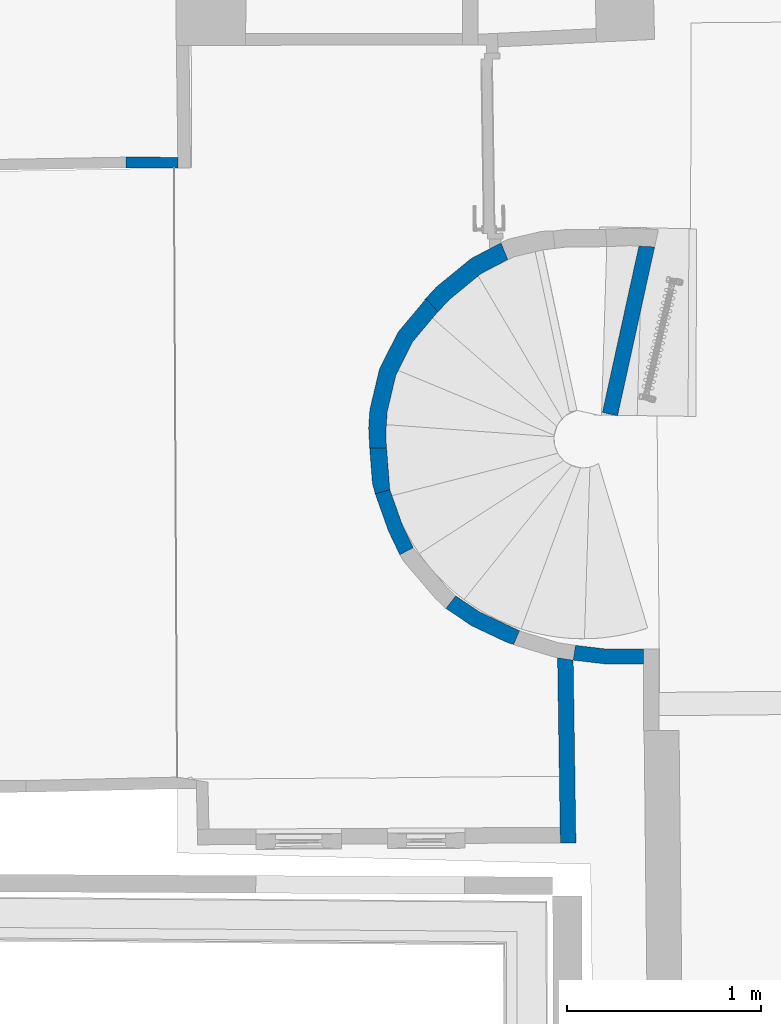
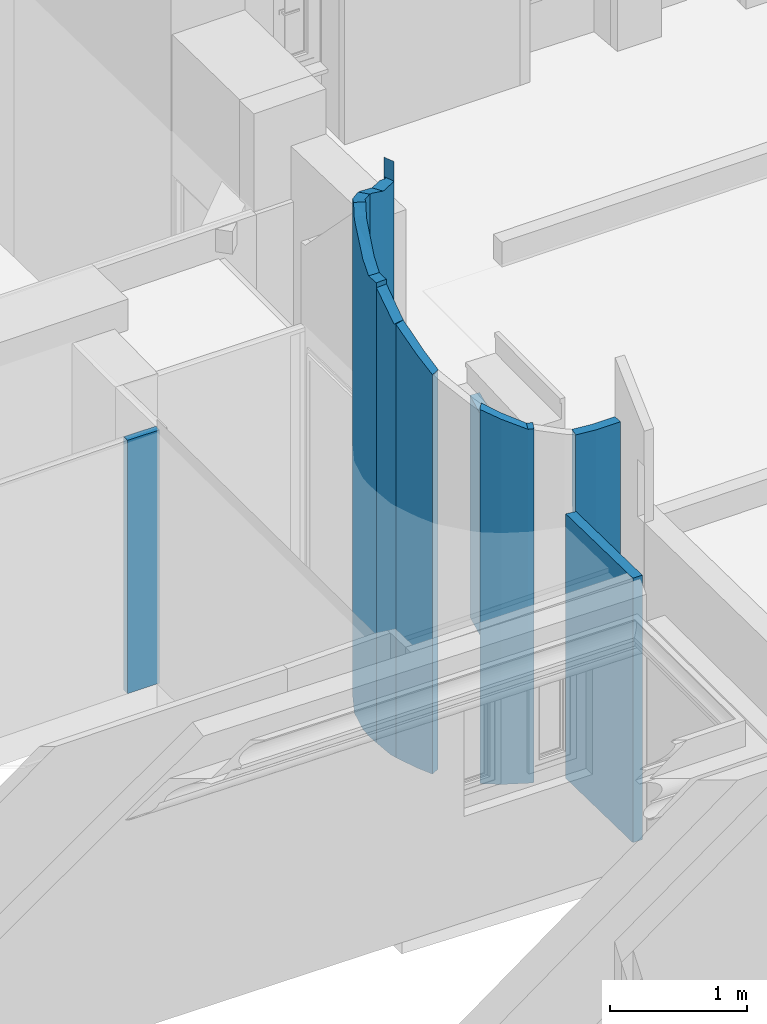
# One storey, part 10 of 72: 9 walls.
"""IFC2X3 building model written with IfcOpenShell, lengths in centimetres."""

from ifc_helpers import new_model, entity, si_unit, converted_unit, direction, frame, origin, origin_with_axes, place, context, subcontext, project, spatial, polyline, outline, extrude, clip, bounded_halfspace, material, layer, layer_set, layer_usage, type_object, element, save


model = new_model("IFC2X3")

# Units and contexts
model_context = context("Model", 3, precision=0.0001, world=origin(), true_north=direction((0.225632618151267, 0.974212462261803, 0.0)))
body_context = subcontext(model_context, "Body", "Model", "MODEL_VIEW")
ifc_project = project(units=[si_unit("LENGTHUNIT", "METRE", prefix="CENTI"), si_unit("AREAUNIT", "SQUARE_METRE", prefix="CENTI"), si_unit("VOLUMEUNIT", "CUBIC_METRE", prefix="CENTI"), converted_unit("PLANEANGLEUNIT", "DEGREE", entity("IfcRatioMeasure", 0.0174532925), si_unit("PLANEANGLEUNIT", "RADIAN"), dimensions=[0, 0, 0, 0, 0, 0, 0])], contexts=[model_context])

# Site, building, storey
site_placement = place(None, origin_with_axes())
site = spatial("IfcSite", under=ifc_project, at=site_placement, Name="Default Site", CompositionType="ELEMENT")
building_placement = place(site_placement, origin_with_axes())
building = spatial("IfcBuilding", under=site, at=building_placement, Name="Default Building", CompositionType="ELEMENT")
storey_placement = place(building_placement, frame((0.0, 0.0, 853.910374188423), z_axis=(0.0, 0.0, 1.0), x_axis=(1.0, 0.0, 0.0)))
storey = spatial("IfcBuildingStorey", under=building, at=storey_placement, Name="Niveau 2", CompositionType="ELEMENT", Elevation=853.910374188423)

# Walls
ifc_material = material(Name="<aucun>")
ifc_layer_1 = layer(ifc_material, 5.5)
ifc_layer_set_1 = layer_set([ifc_layer_1], Name="default")
ifc_layer_usage_1 = layer_usage(ifc_layer_set_1, "AXIS2", "POSITIVE", -2.75)
wall_type_1 = type_object("IfcWallType", Name="default 55", PredefinedType="NOTDEFINED", material=ifc_layer_set_1)
wall_1_placement = place(storey_placement, frame((-907.766249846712, 33.2991816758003, 1.4210854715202e-12), z_axis=(0.0, 0.0, 1.0), x_axis=(-0.99999518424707, 0.00310346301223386, 0.0)))
element("IfcWallStandardCase", 1, at=wall_1_placement, inside=storey, type_object=wall_type_1, material=ifc_layer_usage_1, Name="Enveloppe 170790", context=body_context, shape_type="SweptSolid", body=[
    extrude(outline(polyline([(26.8660749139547, 2.74999999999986), (1.97374601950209, 2.75), (1.97348199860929, 2.78197186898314), (-1.77635683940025e-13, 2.75000000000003), (0.0891040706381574, -2.75), (26.8660749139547, -2.75000000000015), (26.8660749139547, 2.74999999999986)])), origin_with_axes(), (0.0, 0.0, 1.0), 224.999999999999),
])
ifc_layer_2 = layer(ifc_material, 8.0)
ifc_layer_set_2 = layer_set([ifc_layer_2], Name="default")
ifc_layer_usage_2 = layer_usage(ifc_layer_set_2, "AXIS2", "POSITIVE", -4.0)
wall_type_2 = type_object("IfcWallType", Name="default 80", PredefinedType="NOTDEFINED", material=ifc_layer_set_2)
wall_2_placement = place(storey_placement, frame((-685.185756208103, -96.2820208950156, 1.06581410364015e-12), z_axis=(0.0, 0.0, 1.0), x_axis=(0.214401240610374, 0.976745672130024, 0.0)))
element("IfcWallStandardCase", 2, at=wall_2_placement, inside=storey, type_object=wall_type_2, material=ifc_layer_usage_2, Name="Enveloppe 190281", context=body_context, shape_type="SweptSolid", body=[
    extrude(outline(polyline([(4.44089209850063e-14, 3.99999999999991), (0.0, -4.00000000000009), (89.1022321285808, -3.99999999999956), (87.7575306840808, 4.0), (4.44089209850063e-14, 3.99999999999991)])), frame((0.0, 0.0, -8.88178419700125e-13), z_axis=(0.0, 0.0, 1.0), x_axis=(1.0, 0.0, 0.0)), (0.0, 0.0, 1.0), 197.0),
])
ifc_layer_usage_3 = layer_usage(ifc_layer_set_2, "AXIS2", "POSITIVE", -4.0)
wall_3_placement = place(storey_placement, frame((-706.874069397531, -309.06799141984, 1.4210854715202e-12), z_axis=(0.0, 0.0, 1.0), x_axis=(-0.0149330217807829, 0.9998884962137, 0.0)))
element("IfcWallStandardCase", 3, at=wall_3_placement, inside=storey, type_object=wall_type_2, material=ifc_layer_usage_3, Name="Enveloppe 170226", context=body_context, shape_type="SweptSolid", body=[
    extrude(outline(polyline([(87.3698062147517, 3.99999999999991), (-8.00036402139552, 4.00000000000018), (-8.07668226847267, -4.00000000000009), (86.0132334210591, -4.00000000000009), (86.0669454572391, -3.59832253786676), (87.3698062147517, 3.99999999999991)])), frame((0.0, 0.0, -1.06581410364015e-12), z_axis=(0.0, 0.0, 1.0), x_axis=(1.0, 0.0, 0.0)), (0.0, 0.0, 1.0), 234.999999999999),
])
ifc_layer_3 = layer(ifc_material, 9.0)
ifc_layer_set_3 = layer_set([ifc_layer_3], Name="default")
ifc_layer_usage_4 = layer_usage(ifc_layer_set_3, "AXIS2", "POSITIVE", -4.5)
wall_type_3 = type_object("IfcWallType", Name="default 90", PredefinedType="NOTDEFINED", material=ifc_layer_set_3)
wall_4_placement = place(storey_placement, frame((-805.009611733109, -103.5108878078, 0.0), z_axis=(0.0, 0.0, 1.0), x_axis=(0.0131360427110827, 0.999913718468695, 0.0)))
solid = clip(clip(clip(clip(clip(clip(clip(clip(extrude(outline(polyline([(2.22044604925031e-14, 4.50000000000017), (-10.3519824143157, 3.82881394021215), (-10.0317598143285, -4.85168976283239), (-6.13285936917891, -4.49679144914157), (-0.464886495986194, -4.53014160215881), (2.22044604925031e-14, -4.49999999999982), (8.56747510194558, -4.94255550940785), (27.4103182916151, -9.1477564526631), (44.7754641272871, -17.5850643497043), (59.7267531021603, -29.7996217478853), (60.3723304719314, -30.473660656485), (66.906873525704, -24.2849817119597), (66.1914205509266, -23.5379865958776), (49.6218431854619, -10.0013574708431), (30.3771394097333, -0.65081744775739), (9.49479618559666, 4.00954344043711), (2.22044604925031e-14, 4.50000000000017)])), frame((0.0, 0.0, 3.5527136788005e-13), z_axis=(0.0, 0.0, 1.0), x_axis=(1.0, 0.0, 0.0)), (0.0, 0.0, 1.0), 446.602189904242), bounded_halfspace(frame((59.7267531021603, -29.7996217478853, 432.837243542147), z_axis=(-0.26919255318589, 0.27792106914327, -0.922114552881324), x_axis=(-0.718296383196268, -0.69573723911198, 1.97372982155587e-14)), True, frame((59.7267531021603, -29.7996217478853, 432.837243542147), z_axis=(0.0, 0.0, 1.0), x_axis=(1.0, 0.0, 0.0)), polyline([(2.22044604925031e-14, 8.88178419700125e-14), (7.18012042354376, 5.51464003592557), (6.46466744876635, 6.26163515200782), (2.22044604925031e-14, 8.88178419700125e-14)]))), bounded_halfspace(frame((-10.3519824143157, 3.82881394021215, 408.606828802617), z_axis=(0.0, 0.0, -1.0), x_axis=(0.0368647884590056, -0.999320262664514, 0.0)), True, frame((-10.3519824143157, 3.82881394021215, 408.606828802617), z_axis=(0.0, 0.0, 1.0), x_axis=(1.0, 0.0, 0.0)), polyline([(2.22044604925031e-14, 0.0), (0.320222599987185, -8.68050370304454), (4.21912304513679, -8.32560538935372), (9.8870959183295, -8.35895554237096), (10.3519824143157, -8.32881394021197), (10.3519824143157, 0.671186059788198), (2.22044604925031e-14, 0.0)]))), bounded_halfspace(frame((49.6218431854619, -10.0013574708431, 441.835076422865), z_axis=(-0.328536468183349, 0.209951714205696, -0.920860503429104), x_axis=(-0.538486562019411, -0.842634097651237, 0.0)), True, frame((49.6218431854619, -10.0013574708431, 441.835076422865), z_axis=(0.0, 0.0, 1.0), x_axis=(1.0, 0.0, 0.0)), polyline([(-4.84637905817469, -7.58370687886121), (16.5695773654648, -13.5366291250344), (2.22044604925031e-14, 8.88178419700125e-14), (-4.84637905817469, -7.58370687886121)]))), bounded_halfspace(frame((30.3771394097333, -0.65081744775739, 438.659010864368), z_axis=(0.696064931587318, -0.0721032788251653, -0.714349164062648), x_axis=(-0.103035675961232, -0.99467766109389, 0.0)), True, frame((30.3771394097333, -0.65081744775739, 438.659010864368), z_axis=(0.0, 0.0, 1.0), x_axis=(1.0, 0.0, 0.0)), polyline([(-21.8096643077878, -4.29173806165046), (0.0, 1.77635683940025e-13), (-20.8823432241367, 4.6603608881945), (-21.8096643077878, -4.29173806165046)]))), bounded_halfspace(frame((9.49479618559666, 4.00954344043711, 417.840768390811), z_axis=(0.697190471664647, 1.53869972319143e-15, -0.7168859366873), x_axis=(2.20830298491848e-15, -1.0, 0.0)), True, frame((9.49479618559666, 4.00954344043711, 417.840768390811), z_axis=(0.0, 0.0, 1.0), x_axis=(1.0, 0.0, 0.0)), polyline([(-9.49479618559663, -8.50954344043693), (2.22044604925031e-14, 0.0), (-9.49479618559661, 0.490456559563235), (-9.49479618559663, -8.50954344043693)]))), bounded_halfspace(frame((8.56747510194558, -4.94255550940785, 417.840768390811), z_axis=(0.729164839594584, -0.0755319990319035, -0.680157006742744), x_axis=(0.103035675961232, 0.99467766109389, 0.0)), True, frame((8.56747510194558, -4.94255550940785, 417.840768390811), z_axis=(0.0, 0.0, 1.0), x_axis=(1.0, 0.0, 0.0)), polyline([(-8.56747510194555, 0.442555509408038), (0.0, 0.0), (0.9273210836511, 8.95209894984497), (-8.56747510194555, 0.442555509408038)]))), bounded_halfspace(frame((27.4103182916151, -9.1477564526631, 438.659010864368), z_axis=(0.69441230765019, -0.242463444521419, -0.677497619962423), x_axis=(0.329646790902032, 0.944104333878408, 0.0)), True, frame((27.4103182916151, -9.1477564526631, 438.659010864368), z_axis=(0.0, 0.0, 1.0), x_axis=(1.0, 0.0, 0.0)), polyline([(-18.8428431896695, 4.20520094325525), (1.11022302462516e-14, 8.88178419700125e-14), (2.96682111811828, 8.49693900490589), (-18.8428431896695, 4.20520094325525)]))), bounded_halfspace(frame((28.5411364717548, -9.69719388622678, 440.004752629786), z_axis=(0.687823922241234, -0.251833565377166, -0.680792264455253), x_axis=(0.343811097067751, 0.939038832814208, -1.97697672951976e-14)), True, frame((28.5411364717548, -9.69719388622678, 440.004752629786), z_axis=(0.0, 0.0, 1.0), x_axis=(1.0, 0.0, 0.0)), polyline([(-1.13081818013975, 0.549437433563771), (1.11022302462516e-14, 0.0), (3.08921791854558, 8.43746933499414), (-1.13081818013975, 0.549437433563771)])))
element("IfcWallStandardCase", 4, at=wall_4_placement, inside=storey, type_object=wall_type_3, material=ifc_layer_usage_4, Name="Enveloppe courbe 162928", context=body_context, shape_type="Clipping", body=[
    clip(clip(clip(clip(clip(clip(clip(solid, bounded_halfspace(frame((44.7754641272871, -17.5850643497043, 441.835076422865), z_axis=(-0.29554103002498, 0.305123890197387, -0.905292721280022), x_axis=(0.718296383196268, 0.69573723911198, 0.0)), True, frame((44.7754641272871, -17.5850643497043, 441.835076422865), z_axis=(0.0, 0.0, 1.0), x_axis=(1.0, 0.0, 0.0)), polyline([(2.22044604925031e-14, 0.0), (14.9512889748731, -12.2145573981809), (21.4159564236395, -5.95292224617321), (2.22044604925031e-14, 0.0)]))), bounded_halfspace(frame((59.7267531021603, -29.7996217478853, 432.837243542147), z_axis=(-0.289942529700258, 0.30614642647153, -0.906756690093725), x_axis=(0.726060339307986, 0.687630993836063, 0.0)), True, frame((59.7267531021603, -29.7996217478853, 432.837243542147), z_axis=(0.0, 0.0, 1.0), x_axis=(1.0, 0.0, 0.0)), polyline([(2.22044604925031e-14, 8.88178419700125e-14), (0.645577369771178, -0.674038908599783), (7.18012042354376, 5.51464003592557), (2.22044604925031e-14, 8.88178419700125e-14)]))), bounded_halfspace(frame((31.6303543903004, -1.25972455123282, 440.004752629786), z_axis=(0.658188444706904, -0.229815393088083, -0.716919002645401), x_axis=(0.466478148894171, 0.87193437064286, 0.148756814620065)), True, frame((31.6303543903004, -1.25972455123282, 440.004752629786), z_axis=(0.0, 0.0, 1.0), x_axis=(1.0, 0.0, 0.0)), polyline([(-4.22003609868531, -7.88803190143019), (2.22044604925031e-14, 1.77635683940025e-13), (-1.25321498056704, 0.608907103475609), (-4.22003609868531, -7.88803190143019)]))), bounded_halfspace(frame((35.5776206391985, -13.1160527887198, 446.602189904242), z_axis=(0.581809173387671, -0.277715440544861, -0.764442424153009), x_axis=(0.4307722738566, 0.902460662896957, 0.0)), True, frame((35.5776206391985, -13.1160527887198, 446.602189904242), z_axis=(0.0, 0.0, 1.0), x_axis=(1.0, 0.0, 0.0)), polyline([(-7.0364841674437, 3.41885890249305), (1.11022302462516e-14, 0.0), (3.85082855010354, 8.06742099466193), (-7.0364841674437, 3.41885890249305)]))), bounded_halfspace(frame((39.4284491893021, -5.04863179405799, 446.602189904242), z_axis=(0.570504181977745, -0.208879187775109, -0.794288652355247), x_axis=(-0.343811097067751, -0.939038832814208, 1.97697672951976e-14)), True, frame((39.4284491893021, -5.04863179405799, 446.602189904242), z_axis=(0.0, 0.0, 1.0), x_axis=(1.0, 0.0, 0.0)), polyline([(-10.8873127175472, -4.6485620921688), (2.22044604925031e-14, 8.88178419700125e-14), (-7.79809479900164, 3.78890724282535), (-10.8873127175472, -4.6485620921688)]))), bounded_halfspace(frame((35.5776206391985, -13.1160527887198, 446.602189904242), z_axis=(-0.358015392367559, 0.228790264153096, -0.905251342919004), x_axis=(0.538486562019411, 0.842634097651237, 0.0)), True, frame((35.5776206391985, -13.1160527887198, 446.602189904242), z_axis=(0.0, 0.0, 1.0), x_axis=(1.0, 0.0, 0.0)), polyline([(1.11022302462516e-14, 0.0), (9.19784348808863, -4.46901156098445), (14.0442225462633, 3.11469531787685), (1.11022302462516e-14, 0.0)]))), bounded_halfspace(frame((35.5776206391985, -13.1160527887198, 446.602189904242), z_axis=(-0.349924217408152, 0.167029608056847, -0.921766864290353), x_axis=(0.92671995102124, 0.205525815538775, -0.314562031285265)), True, frame((35.5776206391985, -13.1160527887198, 446.602189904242), z_axis=(0.0, 0.0, 1.0), x_axis=(1.0, 0.0, 0.0)), polyline([(1.11022302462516e-14, 0.0), (14.0442225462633, 3.11469531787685), (3.85082855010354, 8.06742099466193), (1.11022302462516e-14, 0.0)]))),
])
ifc_layer_4 = layer(ifc_material, 8.2)
ifc_layer_set_4 = layer_set([ifc_layer_4], Name="default")
ifc_layer_usage_5 = layer_usage(ifc_layer_set_4, "AXIS2", "POSITIVE", -4.1)
wall_type_4 = type_object("IfcWallType", Name="default 82", PredefinedType="NOTDEFINED", material=ifc_layer_set_4)
wall_5_placement = place(storey_placement, frame((-737.558811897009, -209.689468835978, 0.0), z_axis=(0.0, 0.0, 1.0), x_axis=(-0.936122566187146, 0.351673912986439, 0.0)))
element("IfcWallStandardCase", 5, at=wall_5_placement, inside=storey, type_object=wall_type_4, material=ifc_layer_usage_5, Name="Enveloppe courbe 169856", context=body_context, shape_type="Clipping", body=[
    clip(clip(clip(clip(clip(clip(extrude(outline(polyline([(34.7854367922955, -1.17822170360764), (19.2028500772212, 2.51950624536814), (-8.88178419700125e-14, 4.09999999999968), (-3.07198576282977, 4.05981702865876), (-4.43842433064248, 3.89316820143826), (-4.78862192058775, -3.79662760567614), (-2.66453525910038e-13, -4.10000000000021), (17.862127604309, -5.5701453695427), (32.3567547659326, -9.00970190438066), (34.7854367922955, -1.17822170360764)])), frame((0.0, 0.0, 3.5527136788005e-13), z_axis=(0.0, 0.0, 1.0), x_axis=(1.0, 0.0, 0.0)), (0.0, 0.0, 1.0), 332.486352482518), bounded_halfspace(frame((19.2028500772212, 2.51950624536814, 324.278299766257), z_axis=(0.45744161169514, 9.27036225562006e-15, -0.889239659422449), x_axis=(-1.58206781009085e-14, -1.0, 0.0)), True, frame((19.2028500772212, 2.51950624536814, 324.278299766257), z_axis=(0.0, 0.0, 1.0), x_axis=(1.0, 0.0, 0.0)), polyline([(-19.2028500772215, -6.61950624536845), (8.88178419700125e-14, 0.0), (-19.2028500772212, 1.58049375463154), (-19.2028500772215, -6.61950624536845)]))), bounded_halfspace(frame((-4.43842433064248, 3.89316820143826, 314.399992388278), z_axis=(0.0, 0.0, -1.0), x_axis=(-0.0454934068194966, -0.998964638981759, 0.0)), True, frame((-4.43842433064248, 3.89316820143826, 314.399992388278), z_axis=(0.0, 0.0, 1.0), x_axis=(1.0, 0.0, 0.0)), polyline([(-0.350197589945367, -7.68979580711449), (1.57519710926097, -7.81177486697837), (1.36643856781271, 0.166648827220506), (0.0, 0.0), (-0.350197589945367, -7.68979580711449)]))), bounded_halfspace(frame((17.862127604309, -5.5701453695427, 324.278299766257), z_axis=(0.477441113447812, -0.0791277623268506, -0.875093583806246), x_axis=(0.163502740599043, 0.986542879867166, 0.0)), True, frame((17.862127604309, -5.5701453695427, 324.278299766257), z_axis=(0.0, 0.0, 1.0), x_axis=(1.0, 0.0, 0.0)), polyline([(-17.8621276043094, 1.4701453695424), (0.0, -8.88178419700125e-14), (1.34072247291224, 8.08965161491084), (-17.8621276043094, 1.4701453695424)]))), bounded_halfspace(frame((32.3567547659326, -9.00970190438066, 332.486352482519), z_axis=(0.46161282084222, -0.143673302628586, -0.875369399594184), x_axis=(-0.876686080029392, -0.22451567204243, -0.425457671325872)), True, frame((32.3567547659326, -9.00970190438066, 332.486352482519), z_axis=(0.0, 0.0, 1.0), x_axis=(1.0, 0.0, 0.0)), polyline([(-14.4946271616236, 3.43955653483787), (0.0, -8.88178419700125e-14), (2.40916556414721, 7.76854780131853), (-14.4946271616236, 3.43955653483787)]))), bounded_halfspace(frame((34.7854367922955, -1.17822170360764, 332.486352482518), z_axis=(0.450805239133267, -0.0747133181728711, -0.889490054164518), x_axis=(0.295480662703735, 0.95280112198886, 0.0697223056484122)), True, frame((34.7854367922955, -1.17822170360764, 332.486352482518), z_axis=(0.0, 0.0, 1.0), x_axis=(1.0, 0.0, 0.0)), polyline([(-16.9233091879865, -4.39192366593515), (-0.0195164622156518, -0.0629323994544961), (0.0, -8.88178419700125e-14), (-15.5825867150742, 3.69772794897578), (-16.9233091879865, -4.39192366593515)]))), bounded_halfspace(frame((-8.88178419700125e-14, 4.09999999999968, 314.399992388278), z_axis=(0.0, 0.0, -1.0), x_axis=(-0.999914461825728, -0.0130793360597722, 0.0)), True, frame((-8.88178419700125e-14, 4.09999999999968, 314.399992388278), z_axis=(0.0, 0.0, 1.0), x_axis=(1.0, 0.0, 0.0)), polyline([(-3.07198576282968, -0.0401829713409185), (-2.86322722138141, -8.0186066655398), (-2.66453525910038e-13, -8.19999999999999), (8.88178419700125e-14, 0.0), (-3.07198576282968, -0.0401829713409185)]))),
])
ifc_layer_5 = layer(ifc_material, 7.8)
ifc_layer_set_5 = layer_set([ifc_layer_5], Name="default")
ifc_layer_usage_6 = layer_usage(ifc_layer_set_5, "AXIS2", "POSITIVE", -3.9)
wall_type_5 = type_object("IfcWallType", Name="default 78", PredefinedType="NOTDEFINED", material=ifc_layer_set_5)
wall_6_placement = place(storey_placement, frame((-789.999524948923, -166.919554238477, 0.0), z_axis=(0.0, 0.0, 1.0), x_axis=(-0.466552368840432, 0.884493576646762, 0.0)))
element("IfcWallStandardCase", 6, at=wall_6_placement, inside=storey, type_object=wall_type_5, material=ifc_layer_usage_6, Name="Enveloppe courbe 169375", context=body_context, shape_type="Clipping", body=[
    clip(clip(clip(clip(extrude(outline(polyline([(33.67924797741, 0.445038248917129), (13.6896431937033, 3.33415478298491), (3.64153152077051e-12, 3.8999999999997), (3.37507799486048e-12, -3.90000000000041), (13.0459354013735, -4.43923831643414), (32.0955986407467, -7.19250420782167), (33.67924797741, 0.445038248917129)])), frame((0.0, 0.0, 1.77635683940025e-13), z_axis=(0.0, 0.0, 1.0), x_axis=(1.0, 0.0, 0.0)), (0.0, 0.0, 1.0), 385.012152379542), bounded_halfspace(frame((33.67924797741, 0.445038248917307, 385.012152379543), z_axis=(0.664933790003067, -0.0550625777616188, -0.744869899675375), x_axis=(-0.0825266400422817, -0.996588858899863, 0.0)), True, frame((33.67924797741, 0.445038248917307, 385.012152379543), z_axis=(0.0, 0.0, 1.0), x_axis=(1.0, 0.0, 0.0)), polyline([(-20.6333125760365, -4.88427656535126), (4.44089209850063e-14, 1.77635683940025e-13), (-19.9896047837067, 2.88911653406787), (-20.6333125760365, -4.88427656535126)]))), bounded_halfspace(frame((13.6896431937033, 3.33415478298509, 366.954172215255), z_axis=(0.666714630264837, 0.0, -0.74531308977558), x_axis=(-3.58046925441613e-14, -1.0, -2.27738056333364e-14)), True, frame((13.6896431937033, 3.33415478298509, 366.954172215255), z_axis=(0.0, 0.0, 1.0), x_axis=(1.0, 0.0, 0.0)), polyline([(-13.6896431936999, -7.23415478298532), (0.0, 8.88178419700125e-14), (-13.6896431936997, 0.565845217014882), (-13.6896431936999, -7.23415478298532)]))), bounded_halfspace(frame((13.0459354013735, -4.43923831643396, 366.954172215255), z_axis=(0.682064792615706, -0.056481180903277, -0.729107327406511), x_axis=(0.0825266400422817, 0.996588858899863, 0.0)), True, frame((13.0459354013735, -4.43923831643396, 366.954172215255), z_axis=(0.0, 0.0, 1.0), x_axis=(1.0, 0.0, 0.0)), polyline([(-13.0459354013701, 0.539238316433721), (0.0, 0.0), (0.643707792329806, 7.77339309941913), (-13.0459354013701, 0.539238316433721)]))), bounded_halfspace(frame((32.0955986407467, -7.19250420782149, 385.012152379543), z_axis=(0.670621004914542, -0.139053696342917, -0.728650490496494), x_axis=(0.203031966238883, 0.979172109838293, 0.0)), True, frame((32.0955986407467, -7.19250420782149, 385.012152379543), z_axis=(0.0, 0.0, 1.0), x_axis=(1.0, 0.0, 0.0)), polyline([(-19.0496632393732, 2.75326589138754), (0.0, 0.0), (1.58364933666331, 7.63754245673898), (-19.0496632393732, 2.75326589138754)]))),
])
ifc_layer_6 = layer(ifc_material, 8.7)
ifc_layer_set_6 = layer_set([ifc_layer_6], Name="default")
ifc_layer_usage_7 = layer_usage(ifc_layer_set_6, "AXIS2", "POSITIVE", -4.35)
wall_type_6 = type_object("IfcWallType", Name="default 87", PredefinedType="NOTDEFINED", material=ifc_layer_set_6)
wall_7_placement = place(storey_placement, frame((-802.90974251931, -135.848268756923, 0.0), z_axis=(0.0, 0.0, 1.0), x_axis=(-0.154654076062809, 0.98796868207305, 0.0)))
element("IfcWallStandardCase", 7, at=wall_7_placement, inside=storey, type_object=wall_type_6, material=ifc_layer_usage_7, Name="Enveloppe courbe 169304", context=body_context, shape_type="Clipping", body=[
    clip(clip(clip(clip(clip(clip(extrude(outline(polyline([(22.7093324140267, 2.58332688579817), (-1.55431223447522e-13, 4.35000000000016), (-1.11022302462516e-13, 3.49253159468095), (-0.977556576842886, 3.38850005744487), (-1.77635683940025e-13, -4.34999999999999), (21.5700094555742, -6.02803945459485), (22.7093324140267, 2.58332688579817)])), origin_with_axes(), (0.0, 0.0, 1.0), 404.430022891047), bounded_halfspace(frame((-1.55431223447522e-13, 4.35000000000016, 385.012152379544), z_axis=(0.0, 0.0, 1.0), x_axis=(0.99698763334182, -0.077560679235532, 0.0)), True, frame((-1.55431223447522e-13, 4.35000000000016, 385.012152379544), z_axis=(0.0, 0.0, 1.0), x_axis=(1.0, 0.0, 0.0)), polyline([(6.66133814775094e-14, -0.857468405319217), (0.0, -1.77635683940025e-13), (4.65471564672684, -0.362113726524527), (6.66133814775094e-14, -0.857468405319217)]))), bounded_halfspace(frame((22.7093324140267, 2.58332688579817, 404.430022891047), z_axis=(0.649878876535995, 2.77555756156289e-17, -0.760037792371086), x_axis=(-0.757563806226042, -0.0806199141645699, -0.647763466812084)), True, frame((22.7093324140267, 2.58332688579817, 404.430022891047), z_axis=(0.0, 0.0, 1.0), x_axis=(1.0, 0.0, 0.0)), polyline([(-22.7093324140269, -6.93332688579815), (-0.182322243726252, -1.37804967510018), (0.0, 0.0), (-18.0546167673, 1.40455938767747), (-22.7093324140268, 0.909204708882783), (-22.7093324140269, -6.93332688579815)]))), bounded_halfspace(frame((-1.11022302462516e-13, 3.49253159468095, 385.012152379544), z_axis=(0.0, 0.0, -1.0), x_axis=(-0.994385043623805, -0.105822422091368, 0.0)), True, frame((-1.11022302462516e-13, 3.49253159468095, 385.012152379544), z_axis=(0.0, 0.0, 1.0), x_axis=(1.0, 0.0, 0.0)), polyline([(-0.30116005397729, -5.45849863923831), (-6.66133814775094e-14, -7.84253159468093), (2.22044604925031e-14, 0.0), (-0.310938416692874, -0.0330900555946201), (-0.30116005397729, -5.45849863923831)]))), bounded_halfspace(frame((21.5700094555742, -6.02803945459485, 404.430022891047), z_axis=(0.66100764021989, -0.103472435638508, -0.743210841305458), x_axis=(0.131131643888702, 0.991134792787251, -0.0213615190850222)), True, frame((21.5700094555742, -6.02803945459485, 404.430022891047), z_axis=(0.0, 0.0, 1.0), x_axis=(1.0, 0.0, 0.0)), polyline([(-21.5700094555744, 1.67803945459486), (0.0, -1.77635683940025e-13), (0.957000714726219, 7.23331666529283), (-21.5700094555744, 1.67803945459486)]))), bounded_halfspace(frame((-0.310938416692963, 3.45944153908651, 385.012152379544), z_axis=(0.0, 0.0, -1.0), x_axis=(-0.994385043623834, -0.105822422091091, 0.0)), True, frame((-0.310938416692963, 3.45944153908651, 385.012152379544), z_axis=(0.0, 0.0, 1.0), x_axis=(1.0, 0.0, 0.0)), polyline([(-0.666618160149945, -0.0709414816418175), (0.00977836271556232, -5.42540858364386), (-2.22044604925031e-14, -1.77635683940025e-13), (-0.666618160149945, -0.0709414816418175)]))), bounded_halfspace(frame((4.65471564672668, 3.98788627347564, 388.992219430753), z_axis=(0.649878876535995, 2.77555756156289e-17, -0.760037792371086), x_axis=(0.757563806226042, 0.0806199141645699, 0.647763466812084)), True, frame((4.65471564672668, 3.98788627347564, 388.992219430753), z_axis=(0.0, 0.0, 1.0), x_axis=(1.0, 0.0, 0.0)), polyline([(-4.65471564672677, -0.495354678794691), (0.0, 0.0), (-4.65471564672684, 0.362113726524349), (-4.65471564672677, -0.495354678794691)]))),
])
ifc_layer_7 = layer(ifc_material, 7.7)
ifc_layer_set_7 = layer_set([ifc_layer_7], Name="default")
ifc_layer_usage_8 = layer_usage(ifc_layer_set_7, "AXIS2", "POSITIVE", -3.85)
wall_type_7 = type_object("IfcWallType", Name="default 77", PredefinedType="NOTDEFINED", material=ifc_layer_set_7)
wall_8_placement = place(storey_placement, frame((-660.401929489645, -221.067510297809, 0.0), z_axis=(0.0, 0.0, 1.0), x_axis=(-0.997344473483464, -0.0728285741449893, 0.0)))
element("IfcWallStandardCase", 8, at=wall_8_placement, inside=storey, type_object=wall_type_7, material=ifc_layer_usage_8, Name="Enveloppe courbe 170097", context=body_context, shape_type="Clipping", body=[
    clip(clip(extrude(outline(polyline([(44.1797937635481, -1.3316890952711), (28.1376304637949, 1.76835007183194), (7.8770261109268, 3.26724976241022), (7.33821293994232, -4.39288830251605), (27.0045248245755, -5.84782164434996), (42.4006683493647, -8.82302187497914), (44.1797937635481, -1.3316890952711)])), frame((0.0, 0.0, 3.5527136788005e-13), z_axis=(0.0, 0.0, 1.0), x_axis=(1.0, 0.0, 0.0)), (0.0, 0.0, 1.0), 303.1047512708), bounded_halfspace(frame((44.1797937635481, -1.3316890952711, 234.999999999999), z_axis=(0.0, 0.0, 1.0), x_axis=(-0.231064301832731, -0.972938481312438, 0.0)), True, frame((44.1797937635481, -1.3316890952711, 234.999999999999), z_axis=(0.0, 0.0, 1.0), x_axis=(1.0, 0.0, 0.0)), polyline([(-0.949120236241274, -3.99644425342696), (-0.188934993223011, 0.0365104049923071), (0.0, 0.0), (-0.949120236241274, -3.99644425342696)]))), bounded_halfspace(frame((43.7819021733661, -1.25479924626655, 234.999999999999), z_axis=(0.0, 0.0, 1.0), x_axis=(0.981835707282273, -0.189733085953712, 0.0)), True, frame((43.7819021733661, -1.25479924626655, 234.999999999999), z_axis=(0.0, 0.0, 1.0), x_axis=(1.0, 0.0, 0.0)), polyline([(-1.76310227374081, -7.49442914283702), (0.0, -4.44089209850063e-14), (0.208956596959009, -0.0403794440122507), (-0.551228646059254, -4.07333410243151), (-1.38123382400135, -7.5682226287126), (-1.76310227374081, -7.49442914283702)]))),
])
ifc_layer_8 = layer(ifc_material, 9.3)
ifc_layer_set_8 = layer_set([ifc_layer_8], Name="default")
ifc_layer_usage_9 = layer_usage(ifc_layer_set_8, "AXIS2", "POSITIVE", -4.65)
wall_type_8 = type_object("IfcWallType", Name="default 93", PredefinedType="NOTDEFINED", material=ifc_layer_set_8)
wall_9_placement = place(storey_placement, frame((-777.285877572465, -40.5293695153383, 0.0), z_axis=(0.0, 0.0, 1.0), x_axis=(0.648322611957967, 0.76136574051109, 0.0)))
element("IfcWallStandardCase", 9, at=wall_9_placement, inside=storey, type_object=wall_type_8, material=ifc_layer_usage_9, Name="Enveloppe courbe 162722", context=body_context, shape_type="Clipping", body=[
    clip(clip(clip(clip(clip(clip(clip(clip(extrude(outline(polyline([(8.08242361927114e-12, 4.64999999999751), (1.08037940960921, 4.28491915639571), (7.63833440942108e-12, -4.65), (8.38137170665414, -4.98551323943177), (28.6109149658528, -8.62893546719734), (29.945143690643, -9.01692798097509), (43.8001835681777, -14.5695986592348), (48.051623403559, -6.29643260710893), (32.6011152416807, -0.104250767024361), (31.1485476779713, 0.318154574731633), (9.12475384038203, 4.28472855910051), (8.08242361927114e-12, 4.64999999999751)])), frame((0.0, 0.0, 3.5527136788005e-13), z_axis=(0.0, 0.0, 1.0), x_axis=(1.0, 0.0, 0.0)), (0.0, 0.0, 1.0), 432.403240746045), bounded_halfspace(frame((7.63833440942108e-12, -4.65, 432.403240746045), z_axis=(-0.466088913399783, -4.44089209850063e-16, -0.88473788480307), x_axis=(0.847665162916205, -0.286442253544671, -0.44655862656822)), True, frame((7.63833440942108e-12, -4.65, 432.403240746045), z_axis=(0.0, 0.0, 1.0), x_axis=(1.0, 0.0, 0.0)), polyline([(0.0, 0.0), (9.12475384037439, 8.93472855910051), (4.44089209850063e-13, 9.29999999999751), (1.08037940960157, 8.9349191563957), (0.0, 0.0)]))), bounded_halfspace(frame((43.8001835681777, -14.5695986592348, 415.004751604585), z_axis=(0.0, 0.0, -1.0), x_axis=(0.456593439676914, 0.889675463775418, 0.0)), True, frame((43.8001835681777, -14.5695986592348, 415.004751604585), z_axis=(0.0, 0.0, 1.0), x_axis=(1.0, 0.0, 0.0)), polyline([(-13.8550398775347, 5.55267067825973), (0.0, 0.0), (4.24160031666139, 8.26478744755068), (2.4035129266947, 6.65158794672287), (-0.794635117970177, 10.2955734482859), (-11.1990683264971, 14.4653478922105), (-13.8550398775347, 5.55267067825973)]))), bounded_halfspace(frame((48.0514981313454, -6.2962854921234, 234.999999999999), z_axis=(0.0, 0.0, -1.0), x_axis=(-0.928230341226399, 0.372005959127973, 0.0)), True, frame((48.0514981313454, -6.2962854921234, 234.999999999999), z_axis=(0.0, 0.0, 1.0), x_axis=(1.0, 0.0, 0.0)), polyline([(-5.0459496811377, 2.02226028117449), (-1.847801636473, -1.62172522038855), (-8.88178419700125e-14, 0.0), (-5.0459496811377, 2.02226028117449)]))), bounded_halfspace(frame((7.63833440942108e-12, -4.65, 432.403240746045), z_axis=(-0.495924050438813, 0.0397682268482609, -0.867454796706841), x_axis=(0.079933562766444, 0.996800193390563, 0.0)), True, frame((7.63833440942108e-12, -4.65, 432.403240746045), z_axis=(0.0, 0.0, 1.0), x_axis=(1.0, 0.0, 0.0)), polyline([(0.0, 0.0), (8.3813717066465, -0.335513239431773), (9.12475384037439, 8.93472855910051), (0.0, 0.0)]))), bounded_halfspace(frame((8.38137170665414, -4.98551323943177, 427.596227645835), z_axis=(-0.480570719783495, 0.136302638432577, -0.866298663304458), x_axis=(0.272863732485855, 0.962052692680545, -1.91006111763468e-14)), True, frame((8.38137170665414, -4.98551323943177, 427.596227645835), z_axis=(0.0, 0.0, 1.0), x_axis=(1.0, 0.0, 0.0)), polyline([(0.0, 0.0), (20.2295432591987, -3.64342222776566), (22.7671759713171, 5.3036678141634), (0.0, 0.0)]))), bounded_halfspace(frame((28.6109149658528, -8.62893546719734, 415.800833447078), z_axis=(-0.476423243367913, 0.141973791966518, -0.867677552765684), x_axis=(0.285588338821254, 0.958352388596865, -1.91006111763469e-14)), True, frame((28.6109149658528, -8.62893546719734, 415.800833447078), z_axis=(0.0, 0.0, 1.0), x_axis=(1.0, 0.0, 0.0)), polyline([(0.0, -8.88178419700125e-14), (1.33422872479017, -0.387992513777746), (3.99020027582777, 8.52468470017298), (0.0, -8.88178419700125e-14)]))), bounded_halfspace(frame((31.1485476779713, 0.318154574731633, 415.800833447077), z_axis=(-0.44803778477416, 0.127075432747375, -0.884937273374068), x_axis=(-0.272863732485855, -0.962052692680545, 0.0)), True, frame((31.1485476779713, 0.318154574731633, 415.800833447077), z_axis=(0.0, 0.0, 1.0), x_axis=(1.0, 0.0, 0.0)), polyline([(-2.53763271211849, -8.94709004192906), (1.45256756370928, -0.422405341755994), (0.0, 0.0), (-2.53763271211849, -8.94709004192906)]))), bounded_halfspace(frame((9.12475384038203, 4.28472855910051, 427.596227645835), z_axis=(-0.466550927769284, 0.0374127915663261, -0.883702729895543), x_axis=(-0.079933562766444, -0.996800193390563, 0.0)), True, frame((9.12475384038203, 4.28472855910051, 427.596227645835), z_axis=(0.0, 0.0, 1.0), x_axis=(1.0, 0.0, 0.0)), polyline([(-0.743382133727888, -9.27024179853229), (22.0237938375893, -3.96657398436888), (0.0, 0.0), (-0.743382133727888, -9.27024179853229)]))),
])

save(model, "model.ifc")
